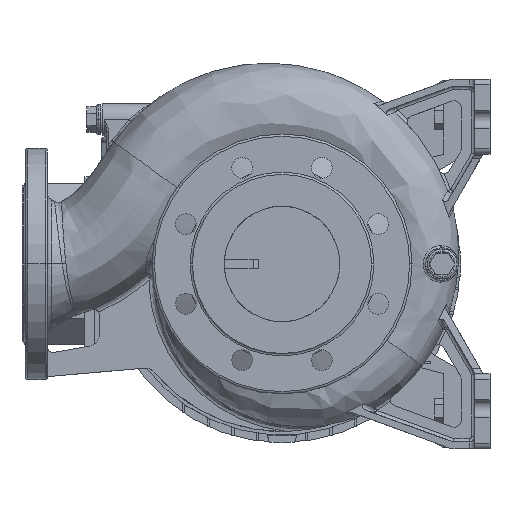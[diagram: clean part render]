
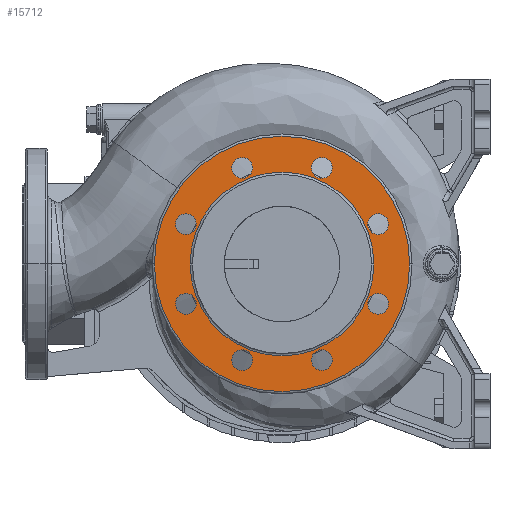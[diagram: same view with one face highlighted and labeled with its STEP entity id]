
A CAD part, left-side view. The second image highlights one B-rep face of the part: STEP entity #15712.
In plain terms, the highlighted planar face has unit normal (-1, 0, 0) as drawn and (0, 0, 1) by its records, which use the part's own axes.
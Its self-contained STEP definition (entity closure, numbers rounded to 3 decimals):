
#4563=CARTESIAN_POINT('',(0.,0.,122.));
#4564=DIRECTION('',(0.,0.,-1.));
#4565=DIRECTION('',(0.,-1.,0.));
#4566=AXIS2_PLACEMENT_3D('',#4563,#4564,#4565);
#4568=CARTESIAN_POINT('',(0.,0.,122.));
#4569=DIRECTION('',(0.,0.,-1.));
#4570=DIRECTION('',(0.,1.,0.));
#4571=AXIS2_PLACEMENT_3D('',#4568,#4569,#4570);
#4573=CARTESIAN_POINT('',(0.,0.,122.));
#4574=DIRECTION('',(0.,0.,1.));
#4575=DIRECTION('',(0.,1.,0.));
#4576=AXIS2_PLACEMENT_3D('',#4573,#4574,#4575);
#4578=CARTESIAN_POINT('',(0.,0.,122.));
#4579=DIRECTION('',(0.,0.,1.));
#4580=DIRECTION('',(0.,-1.,0.));
#4581=AXIS2_PLACEMENT_3D('',#4578,#4579,#4580);
#4583=CARTESIAN_POINT('',(-34.442,83.149,122.));
#4584=DIRECTION('',(0.,0.,1.));
#4585=DIRECTION('',(1.,0.,0.));
#4586=AXIS2_PLACEMENT_3D('',#4583,#4584,#4585);
#4588=CARTESIAN_POINT('',(-34.442,83.149,122.));
#4589=DIRECTION('',(0.,0.,1.));
#4590=DIRECTION('',(-1.,0.,0.));
#4591=AXIS2_PLACEMENT_3D('',#4588,#4589,#4590);
#4593=CARTESIAN_POINT('',(-83.149,34.442,122.));
#4594=DIRECTION('',(0.,0.,1.));
#4595=DIRECTION('',(0.707,0.707,0.));
#4596=AXIS2_PLACEMENT_3D('',#4593,#4594,#4595);
#4598=CARTESIAN_POINT('',(-83.149,34.442,122.));
#4599=DIRECTION('',(0.,0.,1.));
#4600=DIRECTION('',(-0.707,-0.707,0.));
#4601=AXIS2_PLACEMENT_3D('',#4598,#4599,#4600);
#4603=CARTESIAN_POINT('',(-83.149,-34.442,122.));
#4604=DIRECTION('',(0.,0.,1.));
#4605=DIRECTION('',(0.,1.,0.));
#4606=AXIS2_PLACEMENT_3D('',#4603,#4604,#4605);
#4608=CARTESIAN_POINT('',(-83.149,-34.442,122.));
#4609=DIRECTION('',(0.,0.,1.));
#4610=DIRECTION('',(0.,-1.,0.));
#4611=AXIS2_PLACEMENT_3D('',#4608,#4609,#4610);
#4613=CARTESIAN_POINT('',(-34.442,-83.149,122.));
#4614=DIRECTION('',(0.,0.,1.));
#4615=DIRECTION('',(-0.707,0.707,0.));
#4616=AXIS2_PLACEMENT_3D('',#4613,#4614,#4615);
#4618=CARTESIAN_POINT('',(-34.442,-83.149,122.));
#4619=DIRECTION('',(0.,0.,1.));
#4620=DIRECTION('',(0.707,-0.707,0.));
#4621=AXIS2_PLACEMENT_3D('',#4618,#4619,#4620);
#4623=CARTESIAN_POINT('',(34.442,-83.149,122.));
#4624=DIRECTION('',(0.,0.,1.));
#4625=DIRECTION('',(-1.,0.,0.));
#4626=AXIS2_PLACEMENT_3D('',#4623,#4624,#4625);
#4628=CARTESIAN_POINT('',(34.442,-83.149,122.));
#4629=DIRECTION('',(0.,0.,1.));
#4630=DIRECTION('',(1.,0.,0.));
#4631=AXIS2_PLACEMENT_3D('',#4628,#4629,#4630);
#4633=CARTESIAN_POINT('',(83.149,-34.442,122.));
#4634=DIRECTION('',(0.,0.,1.));
#4635=DIRECTION('',(-0.707,-0.707,0.));
#4636=AXIS2_PLACEMENT_3D('',#4633,#4634,#4635);
#4638=CARTESIAN_POINT('',(83.149,-34.442,122.));
#4639=DIRECTION('',(0.,0.,1.));
#4640=DIRECTION('',(0.707,0.707,0.));
#4641=AXIS2_PLACEMENT_3D('',#4638,#4639,#4640);
#4643=CARTESIAN_POINT('',(83.149,34.442,122.));
#4644=DIRECTION('',(0.,0.,1.));
#4645=DIRECTION('',(0.,-1.,0.));
#4646=AXIS2_PLACEMENT_3D('',#4643,#4644,#4645);
#4648=CARTESIAN_POINT('',(83.149,34.442,122.));
#4649=DIRECTION('',(0.,0.,1.));
#4650=DIRECTION('',(0.,1.,0.));
#4651=AXIS2_PLACEMENT_3D('',#4648,#4649,#4650);
#4653=CARTESIAN_POINT('',(34.442,83.149,122.));
#4654=DIRECTION('',(0.,0.,1.));
#4655=DIRECTION('',(0.707,-0.707,0.));
#4656=AXIS2_PLACEMENT_3D('',#4653,#4654,#4655);
#4658=CARTESIAN_POINT('',(34.442,83.149,122.));
#4659=DIRECTION('',(0.,0.,1.));
#4660=DIRECTION('',(-0.707,0.707,0.));
#4661=AXIS2_PLACEMENT_3D('',#4658,#4659,#4660);
#5807=CARTESIAN_POINT('',(0.,-79.5,122.));
#5808=CARTESIAN_POINT('',(0.,79.5,122.));
#5809=VERTEX_POINT('',#5807);
#5810=VERTEX_POINT('',#5808);
#5811=CARTESIAN_POINT('',(0.,110.5,122.));
#5812=CARTESIAN_POINT('',(0.,-110.5,122.));
#5813=VERTEX_POINT('',#5811);
#5814=VERTEX_POINT('',#5812);
#6451=CARTESIAN_POINT('',(-25.442,83.149,122.));
#6452=CARTESIAN_POINT('',(-43.442,83.149,122.));
#6453=VERTEX_POINT('',#6451);
#6454=VERTEX_POINT('',#6452);
#6459=CARTESIAN_POINT('',(-76.785,40.805,122.));
#6460=CARTESIAN_POINT('',(-89.513,28.078,122.));
#6461=VERTEX_POINT('',#6459);
#6462=VERTEX_POINT('',#6460);
#6467=CARTESIAN_POINT('',(-83.149,-25.442,122.));
#6468=CARTESIAN_POINT('',(-83.149,-43.442,122.));
#6469=VERTEX_POINT('',#6467);
#6470=VERTEX_POINT('',#6468);
#6475=CARTESIAN_POINT('',(-40.805,-76.785,122.));
#6476=CARTESIAN_POINT('',(-28.078,-89.513,122.));
#6477=VERTEX_POINT('',#6475);
#6478=VERTEX_POINT('',#6476);
#6483=CARTESIAN_POINT('',(25.442,-83.149,122.));
#6484=CARTESIAN_POINT('',(43.442,-83.149,122.));
#6485=VERTEX_POINT('',#6483);
#6486=VERTEX_POINT('',#6484);
#6491=CARTESIAN_POINT('',(76.785,-40.805,122.));
#6492=CARTESIAN_POINT('',(89.513,-28.078,122.));
#6493=VERTEX_POINT('',#6491);
#6494=VERTEX_POINT('',#6492);
#6499=CARTESIAN_POINT('',(83.149,25.442,122.));
#6500=CARTESIAN_POINT('',(83.149,43.442,122.));
#6501=VERTEX_POINT('',#6499);
#6502=VERTEX_POINT('',#6500);
#6507=CARTESIAN_POINT('',(40.805,76.785,122.));
#6508=CARTESIAN_POINT('',(28.078,89.513,122.));
#6509=VERTEX_POINT('',#6507);
#6510=VERTEX_POINT('',#6508);
#15648=CARTESIAN_POINT('',(0.,0.,122.));
#15649=DIRECTION('',(0.,0.,-1.));
#15650=DIRECTION('',(0.,-1.,0.));
#15651=AXIS2_PLACEMENT_3D('',#15648,#15649,#15650);
#15652=PLANE('',#15651);
#15653=ORIENTED_EDGE('',*,*,#15638,.F.);
#15655=ORIENTED_EDGE('',*,*,#15654,.F.);
#15656=EDGE_LOOP('',(#15653,#15655));
#15657=FACE_OUTER_BOUND('',#15656,.F.);
#15659=ORIENTED_EDGE('',*,*,#15658,.F.);
#15661=ORIENTED_EDGE('',*,*,#15660,.F.);
#15662=EDGE_LOOP('',(#15659,#15661));
#15663=FACE_BOUND('',#15662,.F.);
#15665=ORIENTED_EDGE('',*,*,#15664,.T.);
#15667=ORIENTED_EDGE('',*,*,#15666,.T.);
#15668=EDGE_LOOP('',(#15665,#15667));
#15669=FACE_BOUND('',#15668,.F.);
#15671=ORIENTED_EDGE('',*,*,#15670,.T.);
#15673=ORIENTED_EDGE('',*,*,#15672,.T.);
#15674=EDGE_LOOP('',(#15671,#15673));
#15675=FACE_BOUND('',#15674,.F.);
#15677=ORIENTED_EDGE('',*,*,#15676,.T.);
#15679=ORIENTED_EDGE('',*,*,#15678,.T.);
#15680=EDGE_LOOP('',(#15677,#15679));
#15681=FACE_BOUND('',#15680,.F.);
#15683=ORIENTED_EDGE('',*,*,#15682,.T.);
#15685=ORIENTED_EDGE('',*,*,#15684,.T.);
#15686=EDGE_LOOP('',(#15683,#15685));
#15687=FACE_BOUND('',#15686,.F.);
#15689=ORIENTED_EDGE('',*,*,#15688,.T.);
#15691=ORIENTED_EDGE('',*,*,#15690,.T.);
#15692=EDGE_LOOP('',(#15689,#15691));
#15693=FACE_BOUND('',#15692,.F.);
#15695=ORIENTED_EDGE('',*,*,#15694,.T.);
#15697=ORIENTED_EDGE('',*,*,#15696,.T.);
#15698=EDGE_LOOP('',(#15695,#15697));
#15699=FACE_BOUND('',#15698,.F.);
#15701=ORIENTED_EDGE('',*,*,#15700,.T.);
#15703=ORIENTED_EDGE('',*,*,#15702,.T.);
#15704=EDGE_LOOP('',(#15701,#15703));
#15705=FACE_BOUND('',#15704,.F.);
#15707=ORIENTED_EDGE('',*,*,#15706,.T.);
#15709=ORIENTED_EDGE('',*,*,#15708,.T.);
#15710=EDGE_LOOP('',(#15707,#15709));
#15711=FACE_BOUND('',#15710,.F.);
#4567=CIRCLE('',#4566,79.5);
#4572=CIRCLE('',#4571,79.5);
#4577=CIRCLE('',#4576,110.5);
#4582=CIRCLE('',#4581,110.5);
#4587=CIRCLE('',#4586,9.);
#4592=CIRCLE('',#4591,9.);
#4597=CIRCLE('',#4596,9.);
#4602=CIRCLE('',#4601,9.);
#4607=CIRCLE('',#4606,9.);
#4612=CIRCLE('',#4611,9.);
#4617=CIRCLE('',#4616,9.);
#4622=CIRCLE('',#4621,9.);
#4627=CIRCLE('',#4626,9.);
#4632=CIRCLE('',#4631,9.);
#4637=CIRCLE('',#4636,9.);
#4642=CIRCLE('',#4641,9.);
#4647=CIRCLE('',#4646,9.);
#4652=CIRCLE('',#4651,9.);
#4657=CIRCLE('',#4656,9.);
#4662=CIRCLE('',#4661,9.);
#15638=EDGE_CURVE('',#5813,#5814,#4577,.T.);
#15654=EDGE_CURVE('',#5814,#5813,#4582,.T.);
#15658=EDGE_CURVE('',#5809,#5810,#4567,.T.);
#15660=EDGE_CURVE('',#5810,#5809,#4572,.T.);
#15664=EDGE_CURVE('',#6453,#6454,#4587,.T.);
#15666=EDGE_CURVE('',#6454,#6453,#4592,.T.);
#15670=EDGE_CURVE('',#6461,#6462,#4597,.T.);
#15672=EDGE_CURVE('',#6462,#6461,#4602,.T.);
#15676=EDGE_CURVE('',#6469,#6470,#4607,.T.);
#15678=EDGE_CURVE('',#6470,#6469,#4612,.T.);
#15682=EDGE_CURVE('',#6477,#6478,#4617,.T.);
#15684=EDGE_CURVE('',#6478,#6477,#4622,.T.);
#15688=EDGE_CURVE('',#6485,#6486,#4627,.T.);
#15690=EDGE_CURVE('',#6486,#6485,#4632,.T.);
#15694=EDGE_CURVE('',#6493,#6494,#4637,.T.);
#15696=EDGE_CURVE('',#6494,#6493,#4642,.T.);
#15700=EDGE_CURVE('',#6501,#6502,#4647,.T.);
#15702=EDGE_CURVE('',#6502,#6501,#4652,.T.);
#15706=EDGE_CURVE('',#6509,#6510,#4657,.T.);
#15708=EDGE_CURVE('',#6510,#6509,#4662,.T.);
#15712=ADVANCED_FACE('',(#15657,#15663,#15669,#15675,#15681,#15687,#15693,
#15699,#15705,#15711),#15652,.F.);
